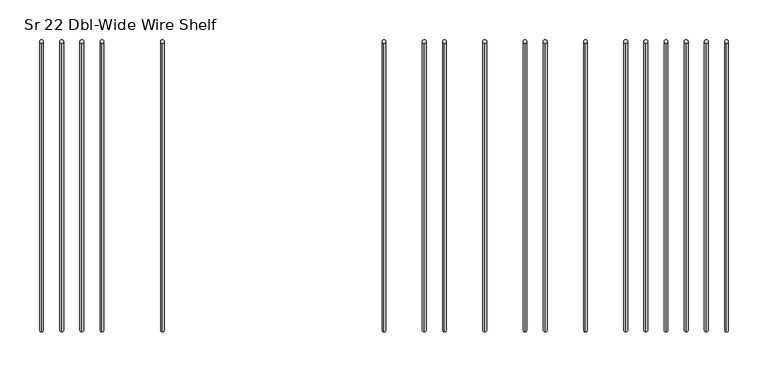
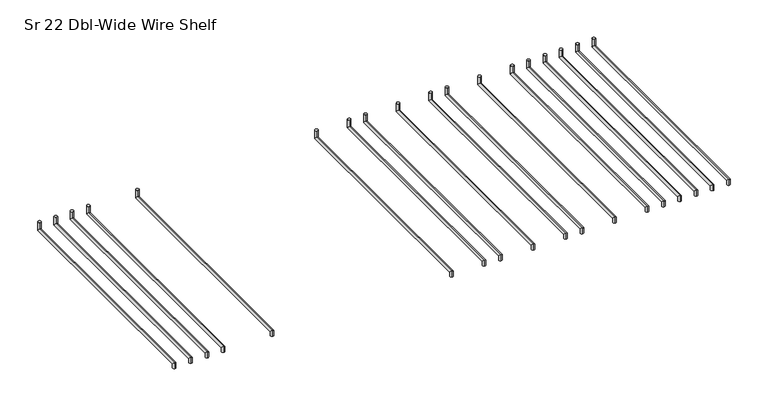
"""IFC4 building model written with IfcOpenShell, lengths in millimetres: furniture geometry, HermanMiller_Carts_CT521_CartShelf : Sr 22 Dbl-Wide Wire Shelf."""

from ifc_helpers import new_model, si_unit, frame, origin, place, context, project, spatial, circle_curve, ellipse_curve, source, transform, mapped, element, save
from ifc_brep_helpers import plane_surface, cylinder_surface, advanced_brep


def sr_22_dbl_wide_wire_shelf_477b4204(model_context):
    return source(origin(), model_context, "Body", "AdvancedBrep", [
        advanced_brep(
        [(561.7223083, -206.38135, 1843.6971), (561.7223083, -211.14385, 1843.6971), (561.7223083, -206.38135, 1848.4596), (561.7223083, -211.14385, 1853.2221), (561.7223083, 157.2983379, 1848.4596), (561.7223083, 152.5358379, 1853.2221), (561.7223083, 157.2983379, 1863.7377), (561.7223083, 152.5358379, 1863.7377)],
        [
            (0, 1, circle_curve(frame((561.7223083, -208.7626, 1843.6971), z_axis=(0.0, 0.0, -1.0), x_axis=(0.0, -1.0, 0.0)), 2.38125)),
            (1, 0, circle_curve(frame((561.7223083, -208.7626, 1843.6971), z_axis=(0.0, 0.0, -1.0), x_axis=(0.0, -1.0, 0.0)), 2.38125)),
            (0, 2),
            (2, 3, ellipse_curve(frame((561.7223083, -208.7626, 1850.84085), z_axis=(0.0, -0.7071067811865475, -0.7071067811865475), x_axis=(0.0, 0.7071067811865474, -0.7071067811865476)), 3.367596, 2.38125)),
            (3, 1),
            (3, 2, ellipse_curve(frame((561.7223083, -208.7626, 1850.84085), z_axis=(0.0, -0.7071067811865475, -0.7071067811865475), x_axis=(0.0, 0.7071067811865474, -0.7071067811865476)), 3.367596, 2.38125)),
            (2, 4),
            (4, 5, ellipse_curve(frame((561.7223083, 154.9170879, 1850.84085), z_axis=(0.0, -0.7071067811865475, -0.7071067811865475), x_axis=(0.0, -0.7071067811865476, 0.7071067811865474)), 3.367596, 2.38125)),
            (5, 3),
            (5, 4, ellipse_curve(frame((561.7223083, 154.9170879, 1850.84085), z_axis=(0.0, -0.7071067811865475, -0.7071067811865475), x_axis=(0.0, -0.7071067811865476, 0.7071067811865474)), 3.367596, 2.38125)),
            (6, 7, circle_curve(frame((561.7223083, 154.9170879, 1863.7377), z_axis=(0.0, 0.0, 1.0), x_axis=(0.0, -1.0, 0.0)), 2.38125)),
            (7, 6, circle_curve(frame((561.7223083, 154.9170879, 1863.7377), z_axis=(0.0, 0.0, 1.0), x_axis=(0.0, -1.0, 0.0)), 2.38125)),
            (4, 6),
            (7, 5),
        ],
        [
            plane_surface(frame((561.7223083, -208.7626, 1843.6971), z_axis=(0.0, 0.0, -1.0), x_axis=(1.0, 0.0, 0.0))),
            cylinder_surface(frame((561.7223083, -208.7626, 1843.6971), z_axis=(0.0, 0.0, -1.0), x_axis=(0.0, -1.0, 0.0)), 2.38125),
            cylinder_surface(frame((561.7223083, -208.7626, 1850.84085), z_axis=(0.0, -1.0, 0.0), x_axis=(0.0, 0.0, 1.0)), 2.38125),
            plane_surface(frame((561.7223083, 154.9170879, 1863.7377), z_axis=(0.0, 0.0, 1.0), x_axis=(1.0, 0.0, 0.0))),
            cylinder_surface(frame((561.7223083, 154.9170879, 1850.84085), z_axis=(0.0, 0.0, -1.0), x_axis=(0.0, -1.0, 0.0)), 2.38125),
        ],
        [
            (0, [[1, 2]]),
            (1, [[-1, 3, 4, 5]]),
            (1, [[-2, -5, 6, -3]]),
            (2, [[-4, 7, 8, 9]]),
            (2, [[-6, -9, 10, -7]]),
            (3, [[11, 12]]),
            (4, [[-8, 13, -12, 14]]),
            (4, [[-10, -14, -11, -13]]),
        ],
    ),
        advanced_brep(
        [(637.9223083, -206.38135, 1843.6971), (637.9223083, -211.14385, 1843.6971), (637.9223083, -206.38135, 1848.4596), (637.9223083, -211.14385, 1853.2221), (637.9223083, 157.2983379, 1848.4596), (637.9223083, 152.5358379, 1853.2221), (637.9223083, 157.2983379, 1863.7377), (637.9223083, 152.5358379, 1863.7377)],
        [
            (0, 1, circle_curve(frame((637.9223083, -208.7626, 1843.6971), z_axis=(0.0, 0.0, -1.0), x_axis=(0.0, -1.0, 0.0)), 2.38125)),
            (1, 0, circle_curve(frame((637.9223083, -208.7626, 1843.6971), z_axis=(0.0, 0.0, -1.0), x_axis=(0.0, -1.0, 0.0)), 2.38125)),
            (0, 2),
            (2, 3, ellipse_curve(frame((637.9223083, -208.7626, 1850.84085), z_axis=(0.0, -0.7071067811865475, -0.7071067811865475), x_axis=(0.0, 0.7071067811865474, -0.7071067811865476)), 3.367596, 2.38125)),
            (3, 1),
            (3, 2, ellipse_curve(frame((637.9223083, -208.7626, 1850.84085), z_axis=(0.0, -0.7071067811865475, -0.7071067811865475), x_axis=(0.0, 0.7071067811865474, -0.7071067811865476)), 3.367596, 2.38125)),
            (2, 4),
            (4, 5, ellipse_curve(frame((637.9223083, 154.9170879, 1850.84085), z_axis=(0.0, -0.7071067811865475, -0.7071067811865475), x_axis=(0.0, -0.7071067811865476, 0.7071067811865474)), 3.367596, 2.38125)),
            (5, 3),
            (5, 4, ellipse_curve(frame((637.9223083, 154.9170879, 1850.84085), z_axis=(0.0, -0.7071067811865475, -0.7071067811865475), x_axis=(0.0, -0.7071067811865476, 0.7071067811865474)), 3.367596, 2.38125)),
            (6, 7, circle_curve(frame((637.9223083, 154.9170879, 1863.7377), z_axis=(0.0, 0.0, 1.0), x_axis=(0.0, -1.0, 0.0)), 2.38125)),
            (7, 6, circle_curve(frame((637.9223083, 154.9170879, 1863.7377), z_axis=(0.0, 0.0, 1.0), x_axis=(0.0, -1.0, 0.0)), 2.38125)),
            (4, 6),
            (7, 5),
        ],
        [
            plane_surface(frame((637.9223083, -208.7626, 1843.6971), z_axis=(0.0, 0.0, -1.0), x_axis=(1.0, 0.0, 0.0))),
            cylinder_surface(frame((637.9223083, -208.7626, 1843.6971), z_axis=(0.0, 0.0, -1.0), x_axis=(0.0, -1.0, 0.0)), 2.38125),
            cylinder_surface(frame((637.9223083, -208.7626, 1850.84085), z_axis=(0.0, -1.0, 0.0), x_axis=(0.0, 0.0, 1.0)), 2.38125),
            plane_surface(frame((637.9223083, 154.9170879, 1863.7377), z_axis=(0.0, 0.0, 1.0), x_axis=(1.0, 0.0, 0.0))),
            cylinder_surface(frame((637.9223083, 154.9170879, 1850.84085), z_axis=(0.0, 0.0, -1.0), x_axis=(0.0, -1.0, 0.0)), 2.38125),
        ],
        [
            (0, [[1, 2]]),
            (1, [[-1, 3, 4, 5]]),
            (1, [[-2, -5, 6, -3]]),
            (2, [[-4, 7, 8, 9]]),
            (2, [[-6, -9, 10, -7]]),
            (3, [[11, 12]]),
            (4, [[-8, 13, -12, 14]]),
            (4, [[-10, -14, -11, -13]]),
        ],
    ),
        advanced_brep(
        [(688.7223083, -206.38135, 1843.6971), (688.7223083, -211.14385, 1843.6971), (688.7223083, -206.38135, 1848.4596), (688.7223083, -211.14385, 1853.2221), (688.7223083, 157.2983379, 1848.4596), (688.7223083, 152.5358379, 1853.2221), (688.7223083, 157.2983379, 1863.7377), (688.7223083, 152.5358379, 1863.7377)],
        [
            (0, 1, circle_curve(frame((688.7223083, -208.7626, 1843.6971), z_axis=(0.0, 0.0, -1.0), x_axis=(0.0, -1.0, 0.0)), 2.38125)),
            (1, 0, circle_curve(frame((688.7223083, -208.7626, 1843.6971), z_axis=(0.0, 0.0, -1.0), x_axis=(0.0, -1.0, 0.0)), 2.38125)),
            (0, 2),
            (2, 3, ellipse_curve(frame((688.7223083, -208.7626, 1850.84085), z_axis=(0.0, -0.7071067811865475, -0.7071067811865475), x_axis=(0.0, 0.7071067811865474, -0.7071067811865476)), 3.367596, 2.38125)),
            (3, 1),
            (3, 2, ellipse_curve(frame((688.7223083, -208.7626, 1850.84085), z_axis=(0.0, -0.7071067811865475, -0.7071067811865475), x_axis=(0.0, 0.7071067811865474, -0.7071067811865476)), 3.367596, 2.38125)),
            (2, 4),
            (4, 5, ellipse_curve(frame((688.7223083, 154.9170879, 1850.84085), z_axis=(0.0, -0.7071067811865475, -0.7071067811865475), x_axis=(0.0, -0.7071067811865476, 0.7071067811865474)), 3.367596, 2.38125)),
            (5, 3),
            (5, 4, ellipse_curve(frame((688.7223083, 154.9170879, 1850.84085), z_axis=(0.0, -0.7071067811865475, -0.7071067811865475), x_axis=(0.0, -0.7071067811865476, 0.7071067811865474)), 3.367596, 2.38125)),
            (6, 7, circle_curve(frame((688.7223083, 154.9170879, 1863.7377), z_axis=(0.0, 0.0, 1.0), x_axis=(0.0, -1.0, 0.0)), 2.38125)),
            (7, 6, circle_curve(frame((688.7223083, 154.9170879, 1863.7377), z_axis=(0.0, 0.0, 1.0), x_axis=(0.0, -1.0, 0.0)), 2.38125)),
            (4, 6),
            (7, 5),
        ],
        [
            plane_surface(frame((688.7223083, -208.7626, 1843.6971), z_axis=(0.0, 0.0, -1.0), x_axis=(1.0, 0.0, 0.0))),
            cylinder_surface(frame((688.7223083, -208.7626, 1843.6971), z_axis=(0.0, 0.0, -1.0), x_axis=(0.0, -1.0, 0.0)), 2.38125),
            cylinder_surface(frame((688.7223083, -208.7626, 1850.84085), z_axis=(0.0, -1.0, 0.0), x_axis=(0.0, 0.0, 1.0)), 2.38125),
            plane_surface(frame((688.7223083, 154.9170879, 1863.7377), z_axis=(0.0, 0.0, 1.0), x_axis=(1.0, 0.0, 0.0))),
            cylinder_surface(frame((688.7223083, 154.9170879, 1850.84085), z_axis=(0.0, 0.0, -1.0), x_axis=(0.0, -1.0, 0.0)), 2.38125),
        ],
        [
            (0, [[1, 2]]),
            (1, [[-1, 3, 4, 5]]),
            (1, [[-2, -5, 6, -3]]),
            (2, [[-4, 7, 8, 9]]),
            (2, [[-6, -9, 10, -7]]),
            (3, [[11, 12]]),
            (4, [[-8, 13, -12, 14]]),
            (4, [[-10, -14, -11, -13]]),
        ],
    ),
        advanced_brep(
        [(663.3223083, -206.38135, 1843.6971), (663.3223083, -211.14385, 1843.6971), (663.3223083, -206.38135, 1848.4596), (663.3223083, -211.14385, 1853.2221), (663.3223083, 157.2983379, 1848.4596), (663.3223083, 152.5358379, 1853.2221), (663.3223083, 157.2983379, 1863.7377), (663.3223083, 152.5358379, 1863.7377)],
        [
            (0, 1, circle_curve(frame((663.3223083, -208.7626, 1843.6971), z_axis=(0.0, 0.0, -1.0), x_axis=(0.0, -1.0, 0.0)), 2.38125)),
            (1, 0, circle_curve(frame((663.3223083, -208.7626, 1843.6971), z_axis=(0.0, 0.0, -1.0), x_axis=(0.0, -1.0, 0.0)), 2.38125)),
            (0, 2),
            (2, 3, ellipse_curve(frame((663.3223083, -208.7626, 1850.84085), z_axis=(0.0, -0.7071067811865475, -0.7071067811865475), x_axis=(0.0, 0.7071067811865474, -0.7071067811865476)), 3.367596, 2.38125)),
            (3, 1),
            (3, 2, ellipse_curve(frame((663.3223083, -208.7626, 1850.84085), z_axis=(0.0, -0.7071067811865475, -0.7071067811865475), x_axis=(0.0, 0.7071067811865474, -0.7071067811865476)), 3.367596, 2.38125)),
            (2, 4),
            (4, 5, ellipse_curve(frame((663.3223083, 154.9170879, 1850.84085), z_axis=(0.0, -0.7071067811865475, -0.7071067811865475), x_axis=(0.0, -0.7071067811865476, 0.7071067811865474)), 3.367596, 2.38125)),
            (5, 3),
            (5, 4, ellipse_curve(frame((663.3223083, 154.9170879, 1850.84085), z_axis=(0.0, -0.7071067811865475, -0.7071067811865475), x_axis=(0.0, -0.7071067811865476, 0.7071067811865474)), 3.367596, 2.38125)),
            (6, 7, circle_curve(frame((663.3223083, 154.9170879, 1863.7377), z_axis=(0.0, 0.0, 1.0), x_axis=(0.0, -1.0, 0.0)), 2.38125)),
            (7, 6, circle_curve(frame((663.3223083, 154.9170879, 1863.7377), z_axis=(0.0, 0.0, 1.0), x_axis=(0.0, -1.0, 0.0)), 2.38125)),
            (4, 6),
            (7, 5),
        ],
        [
            plane_surface(frame((663.3223083, -208.7626, 1843.6971), z_axis=(0.0, 0.0, -1.0), x_axis=(1.0, 0.0, 0.0))),
            cylinder_surface(frame((663.3223083, -208.7626, 1843.6971), z_axis=(0.0, 0.0, -1.0), x_axis=(0.0, -1.0, 0.0)), 2.38125),
            cylinder_surface(frame((663.3223083, -208.7626, 1850.84085), z_axis=(0.0, -1.0, 0.0), x_axis=(0.0, 0.0, 1.0)), 2.38125),
            plane_surface(frame((663.3223083, 154.9170879, 1863.7377), z_axis=(0.0, 0.0, 1.0), x_axis=(1.0, 0.0, 0.0))),
            cylinder_surface(frame((663.3223083, 154.9170879, 1850.84085), z_axis=(0.0, 0.0, -1.0), x_axis=(0.0, -1.0, 0.0)), 2.38125),
        ],
        [
            (0, [[1, 2]]),
            (1, [[-1, 3, 4, 5]]),
            (1, [[-2, -5, 6, -3]]),
            (2, [[-4, 7, 8, 9]]),
            (2, [[-6, -9, 10, -7]]),
            (3, [[11, 12]]),
            (4, [[-8, 13, -12, 14]]),
            (4, [[-10, -14, -11, -13]]),
        ],
    ),
        advanced_brep(
        [(612.5223083, -206.38135, 1843.6971), (612.5223083, -211.14385, 1843.6971), (612.5223083, -206.38135, 1848.4596), (612.5223083, -211.14385, 1853.2221), (612.5223083, 157.2983379, 1848.4596), (612.5223083, 152.5358379, 1853.2221), (612.5223083, 157.2983379, 1863.7377), (612.5223083, 152.5358379, 1863.7377)],
        [
            (0, 1, circle_curve(frame((612.5223083, -208.7626, 1843.6971), z_axis=(0.0, 0.0, -1.0), x_axis=(0.0, -1.0, 0.0)), 2.38125)),
            (1, 0, circle_curve(frame((612.5223083, -208.7626, 1843.6971), z_axis=(0.0, 0.0, -1.0), x_axis=(0.0, -1.0, 0.0)), 2.38125)),
            (0, 2),
            (2, 3, ellipse_curve(frame((612.5223083, -208.7626, 1850.84085), z_axis=(0.0, -0.7071067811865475, -0.7071067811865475), x_axis=(0.0, 0.7071067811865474, -0.7071067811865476)), 3.367596, 2.38125)),
            (3, 1),
            (3, 2, ellipse_curve(frame((612.5223083, -208.7626, 1850.84085), z_axis=(0.0, -0.7071067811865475, -0.7071067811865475), x_axis=(0.0, 0.7071067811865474, -0.7071067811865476)), 3.367596, 2.38125)),
            (2, 4),
            (4, 5, ellipse_curve(frame((612.5223083, 154.9170879, 1850.84085), z_axis=(0.0, -0.7071067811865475, -0.7071067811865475), x_axis=(0.0, -0.7071067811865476, 0.7071067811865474)), 3.367596, 2.38125)),
            (5, 3),
            (5, 4, ellipse_curve(frame((612.5223083, 154.9170879, 1850.84085), z_axis=(0.0, -0.7071067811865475, -0.7071067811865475), x_axis=(0.0, -0.7071067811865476, 0.7071067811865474)), 3.367596, 2.38125)),
            (6, 7, circle_curve(frame((612.5223083, 154.9170879, 1863.7377), z_axis=(0.0, 0.0, 1.0), x_axis=(0.0, -1.0, 0.0)), 2.38125)),
            (7, 6, circle_curve(frame((612.5223083, 154.9170879, 1863.7377), z_axis=(0.0, 0.0, 1.0), x_axis=(0.0, -1.0, 0.0)), 2.38125)),
            (4, 6),
            (7, 5),
        ],
        [
            plane_surface(frame((612.5223083, -208.7626, 1843.6971), z_axis=(0.0, 0.0, -1.0), x_axis=(1.0, 0.0, 0.0))),
            cylinder_surface(frame((612.5223083, -208.7626, 1843.6971), z_axis=(0.0, 0.0, -1.0), x_axis=(0.0, -1.0, 0.0)), 2.38125),
            cylinder_surface(frame((612.5223083, -208.7626, 1850.84085), z_axis=(0.0, -1.0, 0.0), x_axis=(0.0, 0.0, 1.0)), 2.38125),
            plane_surface(frame((612.5223083, 154.9170879, 1863.7377), z_axis=(0.0, 0.0, 1.0), x_axis=(1.0, 0.0, 0.0))),
            cylinder_surface(frame((612.5223083, 154.9170879, 1850.84085), z_axis=(0.0, 0.0, -1.0), x_axis=(0.0, -1.0, 0.0)), 2.38125),
        ],
        [
            (0, [[1, 2]]),
            (1, [[-1, 3, 4, 5]]),
            (1, [[-2, -5, 6, -3]]),
            (2, [[-4, 7, 8, 9]]),
            (2, [[-6, -9, 10, -7]]),
            (3, [[11, 12]]),
            (4, [[-8, 13, -12, 14]]),
            (4, [[-10, -14, -11, -13]]),
        ],
    ),
        advanced_brep(
        [(587.1223083, -206.38135, 1843.6971), (587.1223083, -211.14385, 1843.6971), (587.1223083, -206.38135, 1848.4596), (587.1223083, -211.14385, 1853.2221), (587.1223083, 157.2983379, 1848.4596), (587.1223083, 152.5358379, 1853.2221), (587.1223083, 157.2983379, 1863.7377), (587.1223083, 152.5358379, 1863.7377)],
        [
            (0, 1, circle_curve(frame((587.1223083, -208.7626, 1843.6971), z_axis=(0.0, 0.0, -1.0), x_axis=(0.0, -1.0, 0.0)), 2.38125)),
            (1, 0, circle_curve(frame((587.1223083, -208.7626, 1843.6971), z_axis=(0.0, 0.0, -1.0), x_axis=(0.0, -1.0, 0.0)), 2.38125)),
            (0, 2),
            (2, 3, ellipse_curve(frame((587.1223083, -208.7626, 1850.84085), z_axis=(0.0, -0.7071067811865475, -0.7071067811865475), x_axis=(0.0, 0.7071067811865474, -0.7071067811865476)), 3.367596, 2.38125)),
            (3, 1),
            (3, 2, ellipse_curve(frame((587.1223083, -208.7626, 1850.84085), z_axis=(0.0, -0.7071067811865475, -0.7071067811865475), x_axis=(0.0, 0.7071067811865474, -0.7071067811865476)), 3.367596, 2.38125)),
            (2, 4),
            (4, 5, ellipse_curve(frame((587.1223083, 154.9170879, 1850.84085), z_axis=(0.0, -0.7071067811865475, -0.7071067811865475), x_axis=(0.0, -0.7071067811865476, 0.7071067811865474)), 3.367596, 2.38125)),
            (5, 3),
            (5, 4, ellipse_curve(frame((587.1223083, 154.9170879, 1850.84085), z_axis=(0.0, -0.7071067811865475, -0.7071067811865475), x_axis=(0.0, -0.7071067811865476, 0.7071067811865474)), 3.367596, 2.38125)),
            (6, 7, circle_curve(frame((587.1223083, 154.9170879, 1863.7377), z_axis=(0.0, 0.0, 1.0), x_axis=(0.0, -1.0, 0.0)), 2.38125)),
            (7, 6, circle_curve(frame((587.1223083, 154.9170879, 1863.7377), z_axis=(0.0, 0.0, 1.0), x_axis=(0.0, -1.0, 0.0)), 2.38125)),
            (4, 6),
            (7, 5),
        ],
        [
            plane_surface(frame((587.1223083, -208.7626, 1843.6971), z_axis=(0.0, 0.0, -1.0), x_axis=(1.0, 0.0, 0.0))),
            cylinder_surface(frame((587.1223083, -208.7626, 1843.6971), z_axis=(0.0, 0.0, -1.0), x_axis=(0.0, -1.0, 0.0)), 2.38125),
            cylinder_surface(frame((587.1223083, -208.7626, 1850.84085), z_axis=(0.0, -1.0, 0.0), x_axis=(0.0, 0.0, 1.0)), 2.38125),
            plane_surface(frame((587.1223083, 154.9170879, 1863.7377), z_axis=(0.0, 0.0, 1.0), x_axis=(1.0, 0.0, 0.0))),
            cylinder_surface(frame((587.1223083, 154.9170879, 1850.84085), z_axis=(0.0, 0.0, -1.0), x_axis=(0.0, -1.0, 0.0)), 2.38125),
        ],
        [
            (0, [[1, 2]]),
            (1, [[-1, 3, 4, 5]]),
            (1, [[-2, -5, 6, -3]]),
            (2, [[-4, 7, 8, 9]]),
            (2, [[-6, -9, 10, -7]]),
            (3, [[11, 12]]),
            (4, [[-8, 13, -12, 14]]),
            (4, [[-10, -14, -11, -13]]),
        ],
    ),
        advanced_brep(
        [(510.9223083, -206.38135, 1843.6971), (510.9223083, -211.14385, 1843.6971), (510.9223083, -206.38135, 1848.4596), (510.9223083, -211.14385, 1853.2221), (510.9223083, 157.2983379, 1848.4596), (510.9223083, 152.5358379, 1853.2221), (510.9223083, 157.2983379, 1863.7377), (510.9223083, 152.5358379, 1863.7377)],
        [
            (0, 1, circle_curve(frame((510.9223083, -208.7626, 1843.6971), z_axis=(0.0, 0.0, -1.0), x_axis=(0.0, -1.0, 0.0)), 2.38125)),
            (1, 0, circle_curve(frame((510.9223083, -208.7626, 1843.6971), z_axis=(0.0, 0.0, -1.0), x_axis=(0.0, -1.0, 0.0)), 2.38125)),
            (0, 2),
            (2, 3, ellipse_curve(frame((510.9223083, -208.7626, 1850.84085), z_axis=(0.0, -0.7071067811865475, -0.7071067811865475), x_axis=(0.0, 0.7071067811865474, -0.7071067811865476)), 3.367596, 2.38125)),
            (3, 1),
            (3, 2, ellipse_curve(frame((510.9223083, -208.7626, 1850.84085), z_axis=(0.0, -0.7071067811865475, -0.7071067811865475), x_axis=(0.0, 0.7071067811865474, -0.7071067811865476)), 3.367596, 2.38125)),
            (2, 4),
            (4, 5, ellipse_curve(frame((510.9223083, 154.9170879, 1850.84085), z_axis=(0.0, -0.7071067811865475, -0.7071067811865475), x_axis=(0.0, -0.7071067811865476, 0.7071067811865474)), 3.367596, 2.38125)),
            (5, 3),
            (5, 4, ellipse_curve(frame((510.9223083, 154.9170879, 1850.84085), z_axis=(0.0, -0.7071067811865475, -0.7071067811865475), x_axis=(0.0, -0.7071067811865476, 0.7071067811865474)), 3.367596, 2.38125)),
            (6, 7, circle_curve(frame((510.9223083, 154.9170879, 1863.7377), z_axis=(0.0, 0.0, 1.0), x_axis=(0.0, -1.0, 0.0)), 2.38125)),
            (7, 6, circle_curve(frame((510.9223083, 154.9170879, 1863.7377), z_axis=(0.0, 0.0, 1.0), x_axis=(0.0, -1.0, 0.0)), 2.38125)),
            (4, 6),
            (7, 5),
        ],
        [
            plane_surface(frame((510.9223083, -208.7626, 1843.6971), z_axis=(0.0, 0.0, -1.0), x_axis=(1.0, 0.0, 0.0))),
            cylinder_surface(frame((510.9223083, -208.7626, 1843.6971), z_axis=(0.0, 0.0, -1.0), x_axis=(0.0, -1.0, 0.0)), 2.38125),
            cylinder_surface(frame((510.9223083, -208.7626, 1850.84085), z_axis=(0.0, -1.0, 0.0), x_axis=(0.0, 0.0, 1.0)), 2.38125),
            plane_surface(frame((510.9223083, 154.9170879, 1863.7377), z_axis=(0.0, 0.0, 1.0), x_axis=(1.0, 0.0, 0.0))),
            cylinder_surface(frame((510.9223083, 154.9170879, 1850.84085), z_axis=(0.0, 0.0, -1.0), x_axis=(0.0, -1.0, 0.0)), 2.38125),
        ],
        [
            (0, [[1, 2]]),
            (1, [[-1, 3, 4, 5]]),
            (1, [[-2, -5, 6, -3]]),
            (2, [[-4, 7, 8, 9]]),
            (2, [[-6, -9, 10, -7]]),
            (3, [[11, 12]]),
            (4, [[-8, 13, -12, 14]]),
            (4, [[-10, -14, -11, -13]]),
        ],
    ),
        advanced_brep(
        [(460.1223083, -206.38135, 1843.6971), (460.1223083, -211.14385, 1843.6971), (460.1223083, -206.38135, 1848.4596), (460.1223083, -211.14385, 1853.2221), (460.1223083, 157.2983379, 1848.4596), (460.1223083, 152.5358379, 1853.2221), (460.1223083, 157.2983379, 1863.7377), (460.1223083, 152.5358379, 1863.7377)],
        [
            (0, 1, circle_curve(frame((460.1223083, -208.7626, 1843.6971), z_axis=(0.0, 0.0, -1.0), x_axis=(0.0, -1.0, 0.0)), 2.38125)),
            (1, 0, circle_curve(frame((460.1223083, -208.7626, 1843.6971), z_axis=(0.0, 0.0, -1.0), x_axis=(0.0, -1.0, 0.0)), 2.38125)),
            (0, 2),
            (2, 3, ellipse_curve(frame((460.1223083, -208.7626, 1850.84085), z_axis=(0.0, -0.7071067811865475, -0.7071067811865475), x_axis=(0.0, 0.7071067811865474, -0.7071067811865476)), 3.367596, 2.38125)),
            (3, 1),
            (3, 2, ellipse_curve(frame((460.1223083, -208.7626, 1850.84085), z_axis=(0.0, -0.7071067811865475, -0.7071067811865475), x_axis=(0.0, 0.7071067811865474, -0.7071067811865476)), 3.367596, 2.38125)),
            (2, 4),
            (4, 5, ellipse_curve(frame((460.1223083, 154.9170879, 1850.84085), z_axis=(0.0, -0.7071067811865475, -0.7071067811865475), x_axis=(0.0, -0.7071067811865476, 0.7071067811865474)), 3.367596, 2.38125)),
            (5, 3),
            (5, 4, ellipse_curve(frame((460.1223083, 154.9170879, 1850.84085), z_axis=(0.0, -0.7071067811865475, -0.7071067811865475), x_axis=(0.0, -0.7071067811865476, 0.7071067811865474)), 3.367596, 2.38125)),
            (6, 7, circle_curve(frame((460.1223083, 154.9170879, 1863.7377), z_axis=(0.0, 0.0, 1.0), x_axis=(0.0, -1.0, 0.0)), 2.38125)),
            (7, 6, circle_curve(frame((460.1223083, 154.9170879, 1863.7377), z_axis=(0.0, 0.0, 1.0), x_axis=(0.0, -1.0, 0.0)), 2.38125)),
            (4, 6),
            (7, 5),
        ],
        [
            plane_surface(frame((460.1223083, -208.7626, 1843.6971), z_axis=(0.0, 0.0, -1.0), x_axis=(1.0, 0.0, 0.0))),
            cylinder_surface(frame((460.1223083, -208.7626, 1843.6971), z_axis=(0.0, 0.0, -1.0), x_axis=(0.0, -1.0, 0.0)), 2.38125),
            cylinder_surface(frame((460.1223083, -208.7626, 1850.84085), z_axis=(0.0, -1.0, 0.0), x_axis=(0.0, 0.0, 1.0)), 2.38125),
            plane_surface(frame((460.1223083, 154.9170879, 1863.7377), z_axis=(0.0, 0.0, 1.0), x_axis=(1.0, 0.0, 0.0))),
            cylinder_surface(frame((460.1223083, 154.9170879, 1850.84085), z_axis=(0.0, 0.0, -1.0), x_axis=(0.0, -1.0, 0.0)), 2.38125),
        ],
        [
            (0, [[1, 2]]),
            (1, [[-1, 3, 4, 5]]),
            (1, [[-2, -5, 6, -3]]),
            (2, [[-4, 7, 8, 9]]),
            (2, [[-6, -9, 10, -7]]),
            (3, [[11, 12]]),
            (4, [[-8, 13, -12, 14]]),
            (4, [[-10, -14, -11, -13]]),
        ],
    ),
        advanced_brep(
        [(434.7223083, -206.38135, 1843.6971), (434.7223083, -211.14385, 1843.6971), (434.7223083, -206.38135, 1848.4596), (434.7223083, -211.14385, 1853.2221), (434.7223083, 157.2983379, 1848.4596), (434.7223083, 152.5358379, 1853.2221), (434.7223083, 157.2983379, 1863.7377), (434.7223083, 152.5358379, 1863.7377)],
        [
            (0, 1, circle_curve(frame((434.7223083, -208.7626, 1843.6971), z_axis=(0.0, 0.0, -1.0), x_axis=(0.0, -1.0, 0.0)), 2.38125)),
            (1, 0, circle_curve(frame((434.7223083, -208.7626, 1843.6971), z_axis=(0.0, 0.0, -1.0), x_axis=(0.0, -1.0, 0.0)), 2.38125)),
            (0, 2),
            (2, 3, ellipse_curve(frame((434.7223083, -208.7626, 1850.84085), z_axis=(0.0, -0.7071067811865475, -0.7071067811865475), x_axis=(0.0, 0.7071067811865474, -0.7071067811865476)), 3.367596, 2.38125)),
            (3, 1),
            (3, 2, ellipse_curve(frame((434.7223083, -208.7626, 1850.84085), z_axis=(0.0, -0.7071067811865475, -0.7071067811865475), x_axis=(0.0, 0.7071067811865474, -0.7071067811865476)), 3.367596, 2.38125)),
            (2, 4),
            (4, 5, ellipse_curve(frame((434.7223083, 154.9170879, 1850.84085), z_axis=(0.0, -0.7071067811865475, -0.7071067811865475), x_axis=(0.0, -0.7071067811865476, 0.7071067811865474)), 3.367596, 2.38125)),
            (5, 3),
            (5, 4, ellipse_curve(frame((434.7223083, 154.9170879, 1850.84085), z_axis=(0.0, -0.7071067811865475, -0.7071067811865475), x_axis=(0.0, -0.7071067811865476, 0.7071067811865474)), 3.367596, 2.38125)),
            (6, 7, circle_curve(frame((434.7223083, 154.9170879, 1863.7377), z_axis=(0.0, 0.0, 1.0), x_axis=(0.0, -1.0, 0.0)), 2.38125)),
            (7, 6, circle_curve(frame((434.7223083, 154.9170879, 1863.7377), z_axis=(0.0, 0.0, 1.0), x_axis=(0.0, -1.0, 0.0)), 2.38125)),
            (4, 6),
            (7, 5),
        ],
        [
            plane_surface(frame((434.7223083, -208.7626, 1843.6971), z_axis=(0.0, 0.0, -1.0), x_axis=(1.0, 0.0, 0.0))),
            cylinder_surface(frame((434.7223083, -208.7626, 1843.6971), z_axis=(0.0, 0.0, -1.0), x_axis=(0.0, -1.0, 0.0)), 2.38125),
            cylinder_surface(frame((434.7223083, -208.7626, 1850.84085), z_axis=(0.0, -1.0, 0.0), x_axis=(0.0, 0.0, 1.0)), 2.38125),
            plane_surface(frame((434.7223083, 154.9170879, 1863.7377), z_axis=(0.0, 0.0, 1.0), x_axis=(1.0, 0.0, 0.0))),
            cylinder_surface(frame((434.7223083, 154.9170879, 1850.84085), z_axis=(0.0, 0.0, -1.0), x_axis=(0.0, -1.0, 0.0)), 2.38125),
        ],
        [
            (0, [[1, 2]]),
            (1, [[-1, 3, 4, 5]]),
            (1, [[-2, -5, 6, -3]]),
            (2, [[-4, 7, 8, 9]]),
            (2, [[-6, -9, 10, -7]]),
            (3, [[11, 12]]),
            (4, [[-8, 13, -12, 14]]),
            (4, [[-10, -14, -11, -13]]),
        ],
    ),
        advanced_brep(
        [(-98.6776917, -206.38135, 1843.6971), (-98.6776917, -211.14385, 1843.6971), (-98.6776917, -206.38135, 1848.4596), (-98.6776917, -211.14385, 1853.2221), (-98.6776917, 157.2983379, 1848.4596), (-98.6776917, 152.5358379, 1853.2221), (-98.6776917, 157.2983379, 1863.7377), (-98.6776917, 152.5358379, 1863.7377)],
        [
            (0, 1, circle_curve(frame((-98.6776917, -208.7626, 1843.6971), z_axis=(0.0, 0.0, -1.0), x_axis=(0.0, -1.0, 0.0)), 2.38125)),
            (1, 0, circle_curve(frame((-98.6776917, -208.7626, 1843.6971), z_axis=(0.0, 0.0, -1.0), x_axis=(0.0, -1.0, 0.0)), 2.38125)),
            (0, 2),
            (2, 3, ellipse_curve(frame((-98.6776917, -208.7626, 1850.84085), z_axis=(0.0, -0.7071067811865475, -0.7071067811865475), x_axis=(0.0, 0.7071067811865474, -0.7071067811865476)), 3.367596, 2.38125)),
            (3, 1),
            (3, 2, ellipse_curve(frame((-98.6776917, -208.7626, 1850.84085), z_axis=(0.0, -0.7071067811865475, -0.7071067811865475), x_axis=(0.0, 0.7071067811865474, -0.7071067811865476)), 3.367596, 2.38125)),
            (2, 4),
            (4, 5, ellipse_curve(frame((-98.6776917, 154.9170879, 1850.84085), z_axis=(0.0, -0.7071067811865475, -0.7071067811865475), x_axis=(0.0, -0.7071067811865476, 0.7071067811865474)), 3.367596, 2.38125)),
            (5, 3),
            (5, 4, ellipse_curve(frame((-98.6776917, 154.9170879, 1850.84085), z_axis=(0.0, -0.7071067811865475, -0.7071067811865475), x_axis=(0.0, -0.7071067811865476, 0.7071067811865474)), 3.367596, 2.38125)),
            (6, 7, circle_curve(frame((-98.6776917, 154.9170879, 1863.7377), z_axis=(0.0, 0.0, 1.0), x_axis=(0.0, -1.0, 0.0)), 2.38125)),
            (7, 6, circle_curve(frame((-98.6776917, 154.9170879, 1863.7377), z_axis=(0.0, 0.0, 1.0), x_axis=(0.0, -1.0, 0.0)), 2.38125)),
            (4, 6),
            (7, 5),
        ],
        [
            plane_surface(frame((-98.6776917, -208.7626, 1843.6971), z_axis=(0.0, 0.0, -1.0), x_axis=(1.0, 0.0, 0.0))),
            cylinder_surface(frame((-98.6776917, -208.7626, 1843.6971), z_axis=(0.0, 0.0, -1.0), x_axis=(0.0, -1.0, 0.0)), 2.38125),
            cylinder_surface(frame((-98.6776917, -208.7626, 1850.84085), z_axis=(0.0, -1.0, 0.0), x_axis=(0.0, 0.0, 1.0)), 2.38125),
            plane_surface(frame((-98.6776917, 154.9170879, 1863.7377), z_axis=(0.0, 0.0, 1.0), x_axis=(1.0, 0.0, 0.0))),
            cylinder_surface(frame((-98.6776917, 154.9170879, 1850.84085), z_axis=(0.0, 0.0, -1.0), x_axis=(0.0, -1.0, 0.0)), 2.38125),
        ],
        [
            (0, [[1, 2]]),
            (1, [[-1, 3, 4, 5]]),
            (1, [[-2, -5, 6, -3]]),
            (2, [[-4, 7, 8, 9]]),
            (2, [[-6, -9, 10, -7]]),
            (3, [[11, 12]]),
            (4, [[-8, 13, -12, 14]]),
            (4, [[-10, -14, -11, -13]]),
        ],
    ),
        advanced_brep(
        [(-149.4776917, -206.38135, 1843.6971), (-149.4776917, -211.14385, 1843.6971), (-149.4776917, -206.38135, 1848.4596), (-149.4776917, -211.14385, 1853.2221), (-149.4776917, 157.2983379, 1848.4596), (-149.4776917, 152.5358379, 1853.2221), (-149.4776917, 157.2983379, 1863.7377), (-149.4776917, 152.5358379, 1863.7377)],
        [
            (0, 1, circle_curve(frame((-149.4776917, -208.7626, 1843.6971), z_axis=(0.0, 0.0, -1.0), x_axis=(0.0, -1.0, 0.0)), 2.38125)),
            (1, 0, circle_curve(frame((-149.4776917, -208.7626, 1843.6971), z_axis=(0.0, 0.0, -1.0), x_axis=(0.0, -1.0, 0.0)), 2.38125)),
            (0, 2),
            (2, 3, ellipse_curve(frame((-149.4776917, -208.7626, 1850.84085), z_axis=(0.0, -0.7071067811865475, -0.7071067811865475), x_axis=(0.0, 0.7071067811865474, -0.7071067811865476)), 3.367596, 2.38125)),
            (3, 1),
            (3, 2, ellipse_curve(frame((-149.4776917, -208.7626, 1850.84085), z_axis=(0.0, -0.7071067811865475, -0.7071067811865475), x_axis=(0.0, 0.7071067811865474, -0.7071067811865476)), 3.367596, 2.38125)),
            (2, 4),
            (4, 5, ellipse_curve(frame((-149.4776917, 154.9170879, 1850.84085), z_axis=(0.0, -0.7071067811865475, -0.7071067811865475), x_axis=(0.0, -0.7071067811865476, 0.7071067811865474)), 3.367596, 2.38125)),
            (5, 3),
            (5, 4, ellipse_curve(frame((-149.4776917, 154.9170879, 1850.84085), z_axis=(0.0, -0.7071067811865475, -0.7071067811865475), x_axis=(0.0, -0.7071067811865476, 0.7071067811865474)), 3.367596, 2.38125)),
            (6, 7, circle_curve(frame((-149.4776917, 154.9170879, 1863.7377), z_axis=(0.0, 0.0, 1.0), x_axis=(0.0, -1.0, 0.0)), 2.38125)),
            (7, 6, circle_curve(frame((-149.4776917, 154.9170879, 1863.7377), z_axis=(0.0, 0.0, 1.0), x_axis=(0.0, -1.0, 0.0)), 2.38125)),
            (4, 6),
            (7, 5),
        ],
        [
            plane_surface(frame((-149.4776917, -208.7626, 1843.6971), z_axis=(0.0, 0.0, -1.0), x_axis=(1.0, 0.0, 0.0))),
            cylinder_surface(frame((-149.4776917, -208.7626, 1843.6971), z_axis=(0.0, 0.0, -1.0), x_axis=(0.0, -1.0, 0.0)), 2.38125),
            cylinder_surface(frame((-149.4776917, -208.7626, 1850.84085), z_axis=(0.0, -1.0, 0.0), x_axis=(0.0, 0.0, 1.0)), 2.38125),
            plane_surface(frame((-149.4776917, 154.9170879, 1863.7377), z_axis=(0.0, 0.0, 1.0), x_axis=(1.0, 0.0, 0.0))),
            cylinder_surface(frame((-149.4776917, 154.9170879, 1850.84085), z_axis=(0.0, 0.0, -1.0), x_axis=(0.0, -1.0, 0.0)), 2.38125),
        ],
        [
            (0, [[1, 2]]),
            (1, [[-1, 3, 4, 5]]),
            (1, [[-2, -5, 6, -3]]),
            (2, [[-4, 7, 8, 9]]),
            (2, [[-6, -9, 10, -7]]),
            (3, [[11, 12]]),
            (4, [[-8, 13, -12, 14]]),
            (4, [[-10, -14, -11, -13]]),
        ],
    ),
        advanced_brep(
        [(-174.8776917, -206.38135, 1843.6971), (-174.8776917, -211.14385, 1843.6971), (-174.8776917, -206.38135, 1848.4596), (-174.8776917, -211.14385, 1853.2221), (-174.8776917, 157.2983379, 1848.4596), (-174.8776917, 152.5358379, 1853.2221), (-174.8776917, 157.2983379, 1863.7377), (-174.8776917, 152.5358379, 1863.7377)],
        [
            (0, 1, circle_curve(frame((-174.8776917, -208.7626, 1843.6971), z_axis=(0.0, 0.0, -1.0), x_axis=(0.0, -1.0, 0.0)), 2.38125)),
            (1, 0, circle_curve(frame((-174.8776917, -208.7626, 1843.6971), z_axis=(0.0, 0.0, -1.0), x_axis=(0.0, -1.0, 0.0)), 2.38125)),
            (0, 2),
            (2, 3, ellipse_curve(frame((-174.8776917, -208.7626, 1850.84085), z_axis=(0.0, -0.7071067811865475, -0.7071067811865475), x_axis=(0.0, 0.7071067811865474, -0.7071067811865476)), 3.367596, 2.38125)),
            (3, 1),
            (3, 2, ellipse_curve(frame((-174.8776917, -208.7626, 1850.84085), z_axis=(0.0, -0.7071067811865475, -0.7071067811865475), x_axis=(0.0, 0.7071067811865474, -0.7071067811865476)), 3.367596, 2.38125)),
            (2, 4),
            (4, 5, ellipse_curve(frame((-174.8776917, 154.9170879, 1850.84085), z_axis=(0.0, -0.7071067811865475, -0.7071067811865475), x_axis=(0.0, -0.7071067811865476, 0.7071067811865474)), 3.367596, 2.38125)),
            (5, 3),
            (5, 4, ellipse_curve(frame((-174.8776917, 154.9170879, 1850.84085), z_axis=(0.0, -0.7071067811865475, -0.7071067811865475), x_axis=(0.0, -0.7071067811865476, 0.7071067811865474)), 3.367596, 2.38125)),
            (6, 7, circle_curve(frame((-174.8776917, 154.9170879, 1863.7377), z_axis=(0.0, 0.0, 1.0), x_axis=(0.0, -1.0, 0.0)), 2.38125)),
            (7, 6, circle_curve(frame((-174.8776917, 154.9170879, 1863.7377), z_axis=(0.0, 0.0, 1.0), x_axis=(0.0, -1.0, 0.0)), 2.38125)),
            (4, 6),
            (7, 5),
        ],
        [
            plane_surface(frame((-174.8776917, -208.7626, 1843.6971), z_axis=(0.0, 0.0, -1.0), x_axis=(1.0, 0.0, 0.0))),
            cylinder_surface(frame((-174.8776917, -208.7626, 1843.6971), z_axis=(0.0, 0.0, -1.0), x_axis=(0.0, -1.0, 0.0)), 2.38125),
            cylinder_surface(frame((-174.8776917, -208.7626, 1850.84085), z_axis=(0.0, -1.0, 0.0), x_axis=(0.0, 0.0, 1.0)), 2.38125),
            plane_surface(frame((-174.8776917, 154.9170879, 1863.7377), z_axis=(0.0, 0.0, 1.0), x_axis=(1.0, 0.0, 0.0))),
            cylinder_surface(frame((-174.8776917, 154.9170879, 1850.84085), z_axis=(0.0, 0.0, -1.0), x_axis=(0.0, -1.0, 0.0)), 2.38125),
        ],
        [
            (0, [[1, 2]]),
            (1, [[-1, 3, 4, 5]]),
            (1, [[-2, -5, 6, -3]]),
            (2, [[-4, 7, 8, 9]]),
            (2, [[-6, -9, 10, -7]]),
            (3, [[11, 12]]),
            (4, [[-8, 13, -12, 14]]),
            (4, [[-10, -14, -11, -13]]),
        ],
    ),
        advanced_brep(
        [(-124.0776917, -206.38135, 1843.6971), (-124.0776917, -211.14385, 1843.6971), (-124.0776917, -206.38135, 1848.4596), (-124.0776917, -211.14385, 1853.2221), (-124.0776917, 157.2983379, 1848.4596), (-124.0776917, 152.5358379, 1853.2221), (-124.0776917, 157.2983379, 1863.7377), (-124.0776917, 152.5358379, 1863.7377)],
        [
            (0, 1, circle_curve(frame((-124.0776917, -208.7626, 1843.6971), z_axis=(0.0, 0.0, -1.0), x_axis=(0.0, -1.0, 0.0)), 2.38125)),
            (1, 0, circle_curve(frame((-124.0776917, -208.7626, 1843.6971), z_axis=(0.0, 0.0, -1.0), x_axis=(0.0, -1.0, 0.0)), 2.38125)),
            (0, 2),
            (2, 3, ellipse_curve(frame((-124.0776917, -208.7626, 1850.84085), z_axis=(0.0, -0.7071067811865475, -0.7071067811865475), x_axis=(0.0, 0.7071067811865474, -0.7071067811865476)), 3.367596, 2.38125)),
            (3, 1),
            (3, 2, ellipse_curve(frame((-124.0776917, -208.7626, 1850.84085), z_axis=(0.0, -0.7071067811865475, -0.7071067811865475), x_axis=(0.0, 0.7071067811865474, -0.7071067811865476)), 3.367596, 2.38125)),
            (2, 4),
            (4, 5, ellipse_curve(frame((-124.0776917, 154.9170879, 1850.84085), z_axis=(0.0, -0.7071067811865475, -0.7071067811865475), x_axis=(0.0, -0.7071067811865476, 0.7071067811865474)), 3.367596, 2.38125)),
            (5, 3),
            (5, 4, ellipse_curve(frame((-124.0776917, 154.9170879, 1850.84085), z_axis=(0.0, -0.7071067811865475, -0.7071067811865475), x_axis=(0.0, -0.7071067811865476, 0.7071067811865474)), 3.367596, 2.38125)),
            (6, 7, circle_curve(frame((-124.0776917, 154.9170879, 1863.7377), z_axis=(0.0, 0.0, 1.0), x_axis=(0.0, -1.0, 0.0)), 2.38125)),
            (7, 6, circle_curve(frame((-124.0776917, 154.9170879, 1863.7377), z_axis=(0.0, 0.0, 1.0), x_axis=(0.0, -1.0, 0.0)), 2.38125)),
            (4, 6),
            (7, 5),
        ],
        [
            plane_surface(frame((-124.0776917, -208.7626, 1843.6971), z_axis=(0.0, 0.0, -1.0), x_axis=(1.0, 0.0, 0.0))),
            cylinder_surface(frame((-124.0776917, -208.7626, 1843.6971), z_axis=(0.0, 0.0, -1.0), x_axis=(0.0, -1.0, 0.0)), 2.38125),
            cylinder_surface(frame((-124.0776917, -208.7626, 1850.84085), z_axis=(0.0, -1.0, 0.0), x_axis=(0.0, 0.0, 1.0)), 2.38125),
            plane_surface(frame((-124.0776917, 154.9170879, 1863.7377), z_axis=(0.0, 0.0, 1.0), x_axis=(1.0, 0.0, 0.0))),
            cylinder_surface(frame((-124.0776917, 154.9170879, 1850.84085), z_axis=(0.0, 0.0, -1.0), x_axis=(0.0, -1.0, 0.0)), 2.38125),
        ],
        [
            (0, [[1, 2]]),
            (1, [[-1, 3, 4, 5]]),
            (1, [[-2, -5, 6, -3]]),
            (2, [[-4, 7, 8, 9]]),
            (2, [[-6, -9, 10, -7]]),
            (3, [[11, 12]]),
            (4, [[-8, 13, -12, 14]]),
            (4, [[-10, -14, -11, -13]]),
        ],
    ),
        advanced_brep(
        [(-22.4776917, -206.38135, 1843.6971), (-22.4776917, -211.14385, 1843.6971), (-22.4776917, -206.38135, 1848.4596), (-22.4776917, -211.14385, 1853.2221), (-22.4776917, 157.2983379, 1848.4596), (-22.4776917, 152.5358379, 1853.2221), (-22.4776917, 157.2983379, 1863.7377), (-22.4776917, 152.5358379, 1863.7377)],
        [
            (0, 1, circle_curve(frame((-22.4776917, -208.7626, 1843.6971), z_axis=(0.0, 0.0, -1.0), x_axis=(0.0, -1.0, 0.0)), 2.38125)),
            (1, 0, circle_curve(frame((-22.4776917, -208.7626, 1843.6971), z_axis=(0.0, 0.0, -1.0), x_axis=(0.0, -1.0, 0.0)), 2.38125)),
            (0, 2),
            (2, 3, ellipse_curve(frame((-22.4776917, -208.7626, 1850.84085), z_axis=(0.0, -0.7071067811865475, -0.7071067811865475), x_axis=(0.0, 0.7071067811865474, -0.7071067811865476)), 3.367596, 2.38125)),
            (3, 1),
            (3, 2, ellipse_curve(frame((-22.4776917, -208.7626, 1850.84085), z_axis=(0.0, -0.7071067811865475, -0.7071067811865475), x_axis=(0.0, 0.7071067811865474, -0.7071067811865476)), 3.367596, 2.38125)),
            (2, 4),
            (4, 5, ellipse_curve(frame((-22.4776917, 154.9170879, 1850.84085), z_axis=(0.0, -0.7071067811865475, -0.7071067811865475), x_axis=(0.0, -0.7071067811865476, 0.7071067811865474)), 3.367596, 2.38125)),
            (5, 3),
            (5, 4, ellipse_curve(frame((-22.4776917, 154.9170879, 1850.84085), z_axis=(0.0, -0.7071067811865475, -0.7071067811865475), x_axis=(0.0, -0.7071067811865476, 0.7071067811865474)), 3.367596, 2.38125)),
            (6, 7, circle_curve(frame((-22.4776917, 154.9170879, 1863.7377), z_axis=(0.0, 0.0, 1.0), x_axis=(0.0, -1.0, 0.0)), 2.38125)),
            (7, 6, circle_curve(frame((-22.4776917, 154.9170879, 1863.7377), z_axis=(0.0, 0.0, 1.0), x_axis=(0.0, -1.0, 0.0)), 2.38125)),
            (4, 6),
            (7, 5),
        ],
        [
            plane_surface(frame((-22.4776917, -208.7626, 1843.6971), z_axis=(0.0, 0.0, -1.0), x_axis=(1.0, 0.0, 0.0))),
            cylinder_surface(frame((-22.4776917, -208.7626, 1843.6971), z_axis=(0.0, 0.0, -1.0), x_axis=(0.0, -1.0, 0.0)), 2.38125),
            cylinder_surface(frame((-22.4776917, -208.7626, 1850.84085), z_axis=(0.0, -1.0, 0.0), x_axis=(0.0, 0.0, 1.0)), 2.38125),
            plane_surface(frame((-22.4776917, 154.9170879, 1863.7377), z_axis=(0.0, 0.0, 1.0), x_axis=(1.0, 0.0, 0.0))),
            cylinder_surface(frame((-22.4776917, 154.9170879, 1850.84085), z_axis=(0.0, 0.0, -1.0), x_axis=(0.0, -1.0, 0.0)), 2.38125),
        ],
        [
            (0, [[1, 2]]),
            (1, [[-1, 3, 4, 5]]),
            (1, [[-2, -5, 6, -3]]),
            (2, [[-4, 7, 8, 9]]),
            (2, [[-6, -9, 10, -7]]),
            (3, [[11, 12]]),
            (4, [[-8, 13, -12, 14]]),
            (4, [[-10, -14, -11, -13]]),
        ],
    ),
        advanced_brep(
        [(333.1223083, -206.38135, 1843.6971), (333.1223083, -211.14385, 1843.6971), (333.1223083, -206.38135, 1848.4596), (333.1223083, -211.14385, 1853.2221), (333.1223083, 157.2983379, 1848.4596), (333.1223083, 152.5358379, 1853.2221), (333.1223083, 157.2983379, 1863.7377), (333.1223083, 152.5358379, 1863.7377)],
        [
            (0, 1, circle_curve(frame((333.1223083, -208.7626, 1843.6971), z_axis=(0.0, 0.0, -1.0), x_axis=(0.0, -1.0, 0.0)), 2.38125)),
            (1, 0, circle_curve(frame((333.1223083, -208.7626, 1843.6971), z_axis=(0.0, 0.0, -1.0), x_axis=(0.0, -1.0, 0.0)), 2.38125)),
            (0, 2),
            (2, 3, ellipse_curve(frame((333.1223083, -208.7626, 1850.84085), z_axis=(0.0, -0.7071067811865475, -0.7071067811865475), x_axis=(0.0, 0.7071067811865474, -0.7071067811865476)), 3.367596, 2.38125)),
            (3, 1),
            (3, 2, ellipse_curve(frame((333.1223083, -208.7626, 1850.84085), z_axis=(0.0, -0.7071067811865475, -0.7071067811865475), x_axis=(0.0, 0.7071067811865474, -0.7071067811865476)), 3.367596, 2.38125)),
            (2, 4),
            (4, 5, ellipse_curve(frame((333.1223083, 154.9170879, 1850.84085), z_axis=(0.0, -0.7071067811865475, -0.7071067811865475), x_axis=(0.0, -0.7071067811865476, 0.7071067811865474)), 3.367596, 2.38125)),
            (5, 3),
            (5, 4, ellipse_curve(frame((333.1223083, 154.9170879, 1850.84085), z_axis=(0.0, -0.7071067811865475, -0.7071067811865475), x_axis=(0.0, -0.7071067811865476, 0.7071067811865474)), 3.367596, 2.38125)),
            (6, 7, circle_curve(frame((333.1223083, 154.9170879, 1863.7377), z_axis=(0.0, 0.0, 1.0), x_axis=(0.0, -1.0, 0.0)), 2.38125)),
            (7, 6, circle_curve(frame((333.1223083, 154.9170879, 1863.7377), z_axis=(0.0, 0.0, 1.0), x_axis=(0.0, -1.0, 0.0)), 2.38125)),
            (4, 6),
            (7, 5),
        ],
        [
            plane_surface(frame((333.1223083, -208.7626, 1843.6971), z_axis=(0.0, 0.0, -1.0), x_axis=(1.0, 0.0, 0.0))),
            cylinder_surface(frame((333.1223083, -208.7626, 1843.6971), z_axis=(0.0, 0.0, -1.0), x_axis=(0.0, -1.0, 0.0)), 2.38125),
            cylinder_surface(frame((333.1223083, -208.7626, 1850.84085), z_axis=(0.0, -1.0, 0.0), x_axis=(0.0, 0.0, 1.0)), 2.38125),
            plane_surface(frame((333.1223083, 154.9170879, 1863.7377), z_axis=(0.0, 0.0, 1.0), x_axis=(1.0, 0.0, 0.0))),
            cylinder_surface(frame((333.1223083, 154.9170879, 1850.84085), z_axis=(0.0, 0.0, -1.0), x_axis=(0.0, -1.0, 0.0)), 2.38125),
        ],
        [
            (0, [[1, 2]]),
            (1, [[-1, 3, 4, 5]]),
            (1, [[-2, -5, 6, -3]]),
            (2, [[-4, 7, 8, 9]]),
            (2, [[-6, -9, 10, -7]]),
            (3, [[11, 12]]),
            (4, [[-8, 13, -12, 14]]),
            (4, [[-10, -14, -11, -13]]),
        ],
    ),
        advanced_brep(
        [(256.9223083, -206.38135, 1843.6971), (256.9223083, -211.14385, 1843.6971), (256.9223083, -206.38135, 1848.4596), (256.9223083, -211.14385, 1853.2221), (256.9223083, 157.2983379, 1848.4596), (256.9223083, 152.5358379, 1853.2221), (256.9223083, 157.2983379, 1863.7377), (256.9223083, 152.5358379, 1863.7377)],
        [
            (0, 1, circle_curve(frame((256.9223083, -208.7626, 1843.6971), z_axis=(0.0, 0.0, -1.0), x_axis=(0.0, -1.0, 0.0)), 2.38125)),
            (1, 0, circle_curve(frame((256.9223083, -208.7626, 1843.6971), z_axis=(0.0, 0.0, -1.0), x_axis=(0.0, -1.0, 0.0)), 2.38125)),
            (0, 2),
            (2, 3, ellipse_curve(frame((256.9223083, -208.7626, 1850.84085), z_axis=(0.0, -0.7071067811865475, -0.7071067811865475), x_axis=(0.0, 0.7071067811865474, -0.7071067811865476)), 3.367596, 2.38125)),
            (3, 1),
            (3, 2, ellipse_curve(frame((256.9223083, -208.7626, 1850.84085), z_axis=(0.0, -0.7071067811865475, -0.7071067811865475), x_axis=(0.0, 0.7071067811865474, -0.7071067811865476)), 3.367596, 2.38125)),
            (2, 4),
            (4, 5, ellipse_curve(frame((256.9223083, 154.9170879, 1850.84085), z_axis=(0.0, -0.7071067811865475, -0.7071067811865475), x_axis=(0.0, -0.7071067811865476, 0.7071067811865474)), 3.367596, 2.38125)),
            (5, 3),
            (5, 4, ellipse_curve(frame((256.9223083, 154.9170879, 1850.84085), z_axis=(0.0, -0.7071067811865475, -0.7071067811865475), x_axis=(0.0, -0.7071067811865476, 0.7071067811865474)), 3.367596, 2.38125)),
            (6, 7, circle_curve(frame((256.9223083, 154.9170879, 1863.7377), z_axis=(0.0, 0.0, 1.0), x_axis=(0.0, -1.0, 0.0)), 2.38125)),
            (7, 6, circle_curve(frame((256.9223083, 154.9170879, 1863.7377), z_axis=(0.0, 0.0, 1.0), x_axis=(0.0, -1.0, 0.0)), 2.38125)),
            (4, 6),
            (7, 5),
        ],
        [
            plane_surface(frame((256.9223083, -208.7626, 1843.6971), z_axis=(0.0, 0.0, -1.0), x_axis=(1.0, 0.0, 0.0))),
            cylinder_surface(frame((256.9223083, -208.7626, 1843.6971), z_axis=(0.0, 0.0, -1.0), x_axis=(0.0, -1.0, 0.0)), 2.38125),
            cylinder_surface(frame((256.9223083, -208.7626, 1850.84085), z_axis=(0.0, -1.0, 0.0), x_axis=(0.0, 0.0, 1.0)), 2.38125),
            plane_surface(frame((256.9223083, 154.9170879, 1863.7377), z_axis=(0.0, 0.0, 1.0), x_axis=(1.0, 0.0, 0.0))),
            cylinder_surface(frame((256.9223083, 154.9170879, 1850.84085), z_axis=(0.0, 0.0, -1.0), x_axis=(0.0, -1.0, 0.0)), 2.38125),
        ],
        [
            (0, [[1, 2]]),
            (1, [[-1, 3, 4, 5]]),
            (1, [[-2, -5, 6, -3]]),
            (2, [[-4, 7, 8, 9]]),
            (2, [[-6, -9, 10, -7]]),
            (3, [[11, 12]]),
            (4, [[-8, 13, -12, 14]]),
            (4, [[-10, -14, -11, -13]]),
        ],
    ),
        advanced_brep(
        [(307.7223083, -206.38135, 1843.6971), (307.7223083, -211.14385, 1843.6971), (307.7223083, -206.38135, 1848.4596), (307.7223083, -211.14385, 1853.2221), (307.7223083, 157.2983379, 1848.4596), (307.7223083, 152.5358379, 1853.2221), (307.7223083, 157.2983379, 1863.7377), (307.7223083, 152.5358379, 1863.7377)],
        [
            (0, 1, circle_curve(frame((307.7223083, -208.7626, 1843.6971), z_axis=(0.0, 0.0, -1.0), x_axis=(0.0, -1.0, 0.0)), 2.38125)),
            (1, 0, circle_curve(frame((307.7223083, -208.7626, 1843.6971), z_axis=(0.0, 0.0, -1.0), x_axis=(0.0, -1.0, 0.0)), 2.38125)),
            (0, 2),
            (2, 3, ellipse_curve(frame((307.7223083, -208.7626, 1850.84085), z_axis=(0.0, -0.7071067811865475, -0.7071067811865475), x_axis=(0.0, 0.7071067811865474, -0.7071067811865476)), 3.367596, 2.38125)),
            (3, 1),
            (3, 2, ellipse_curve(frame((307.7223083, -208.7626, 1850.84085), z_axis=(0.0, -0.7071067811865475, -0.7071067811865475), x_axis=(0.0, 0.7071067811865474, -0.7071067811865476)), 3.367596, 2.38125)),
            (2, 4),
            (4, 5, ellipse_curve(frame((307.7223083, 154.9170879, 1850.84085), z_axis=(0.0, -0.7071067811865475, -0.7071067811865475), x_axis=(0.0, -0.7071067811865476, 0.7071067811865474)), 3.367596, 2.38125)),
            (5, 3),
            (5, 4, ellipse_curve(frame((307.7223083, 154.9170879, 1850.84085), z_axis=(0.0, -0.7071067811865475, -0.7071067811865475), x_axis=(0.0, -0.7071067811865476, 0.7071067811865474)), 3.367596, 2.38125)),
            (6, 7, circle_curve(frame((307.7223083, 154.9170879, 1863.7377), z_axis=(0.0, 0.0, 1.0), x_axis=(0.0, -1.0, 0.0)), 2.38125)),
            (7, 6, circle_curve(frame((307.7223083, 154.9170879, 1863.7377), z_axis=(0.0, 0.0, 1.0), x_axis=(0.0, -1.0, 0.0)), 2.38125)),
            (4, 6),
            (7, 5),
        ],
        [
            plane_surface(frame((307.7223083, -208.7626, 1843.6971), z_axis=(0.0, 0.0, -1.0), x_axis=(1.0, 0.0, 0.0))),
            cylinder_surface(frame((307.7223083, -208.7626, 1843.6971), z_axis=(0.0, 0.0, -1.0), x_axis=(0.0, -1.0, 0.0)), 2.38125),
            cylinder_surface(frame((307.7223083, -208.7626, 1850.84085), z_axis=(0.0, -1.0, 0.0), x_axis=(0.0, 0.0, 1.0)), 2.38125),
            plane_surface(frame((307.7223083, 154.9170879, 1863.7377), z_axis=(0.0, 0.0, 1.0), x_axis=(1.0, 0.0, 0.0))),
            cylinder_surface(frame((307.7223083, 154.9170879, 1850.84085), z_axis=(0.0, 0.0, -1.0), x_axis=(0.0, -1.0, 0.0)), 2.38125),
        ],
        [
            (0, [[1, 2]]),
            (1, [[-1, 3, 4, 5]]),
            (1, [[-2, -5, 6, -3]]),
            (2, [[-4, 7, 8, 9]]),
            (2, [[-6, -9, 10, -7]]),
            (3, [[11, 12]]),
            (4, [[-8, 13, -12, 14]]),
            (4, [[-10, -14, -11, -13]]),
        ],
    ),
        advanced_brep(
        [(383.9223083, -206.38135, 1843.6971), (383.9223083, -211.14385, 1843.6971), (383.9223083, -206.38135, 1848.4596), (383.9223083, -211.14385, 1853.2221), (383.9223083, 157.2983379, 1848.4596), (383.9223083, 152.5358379, 1853.2221), (383.9223083, 157.2983379, 1863.7377), (383.9223083, 152.5358379, 1863.7377)],
        [
            (0, 1, circle_curve(frame((383.9223083, -208.7626, 1843.6971), z_axis=(0.0, 0.0, -1.0), x_axis=(0.0, -1.0, 0.0)), 2.38125)),
            (1, 0, circle_curve(frame((383.9223083, -208.7626, 1843.6971), z_axis=(0.0, 0.0, -1.0), x_axis=(0.0, -1.0, 0.0)), 2.38125)),
            (0, 2),
            (2, 3, ellipse_curve(frame((383.9223083, -208.7626, 1850.84085), z_axis=(0.0, -0.7071067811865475, -0.7071067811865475), x_axis=(0.0, 0.7071067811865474, -0.7071067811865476)), 3.367596, 2.38125)),
            (3, 1),
            (3, 2, ellipse_curve(frame((383.9223083, -208.7626, 1850.84085), z_axis=(0.0, -0.7071067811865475, -0.7071067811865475), x_axis=(0.0, 0.7071067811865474, -0.7071067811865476)), 3.367596, 2.38125)),
            (2, 4),
            (4, 5, ellipse_curve(frame((383.9223083, 154.9170879, 1850.84085), z_axis=(0.0, -0.7071067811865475, -0.7071067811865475), x_axis=(0.0, -0.7071067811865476, 0.7071067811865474)), 3.367596, 2.38125)),
            (5, 3),
            (5, 4, ellipse_curve(frame((383.9223083, 154.9170879, 1850.84085), z_axis=(0.0, -0.7071067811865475, -0.7071067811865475), x_axis=(0.0, -0.7071067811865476, 0.7071067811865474)), 3.367596, 2.38125)),
            (6, 7, circle_curve(frame((383.9223083, 154.9170879, 1863.7377), z_axis=(0.0, 0.0, 1.0), x_axis=(0.0, -1.0, 0.0)), 2.38125)),
            (7, 6, circle_curve(frame((383.9223083, 154.9170879, 1863.7377), z_axis=(0.0, 0.0, 1.0), x_axis=(0.0, -1.0, 0.0)), 2.38125)),
            (4, 6),
            (7, 5),
        ],
        [
            plane_surface(frame((383.9223083, -208.7626, 1843.6971), z_axis=(0.0, 0.0, -1.0), x_axis=(1.0, 0.0, 0.0))),
            cylinder_surface(frame((383.9223083, -208.7626, 1843.6971), z_axis=(0.0, 0.0, -1.0), x_axis=(0.0, -1.0, 0.0)), 2.38125),
            cylinder_surface(frame((383.9223083, -208.7626, 1850.84085), z_axis=(0.0, -1.0, 0.0), x_axis=(0.0, 0.0, 1.0)), 2.38125),
            plane_surface(frame((383.9223083, 154.9170879, 1863.7377), z_axis=(0.0, 0.0, 1.0), x_axis=(1.0, 0.0, 0.0))),
            cylinder_surface(frame((383.9223083, 154.9170879, 1850.84085), z_axis=(0.0, 0.0, -1.0), x_axis=(0.0, -1.0, 0.0)), 2.38125),
        ],
        [
            (0, [[1, 2]]),
            (1, [[-1, 3, 4, 5]]),
            (1, [[-2, -5, 6, -3]]),
            (2, [[-4, 7, 8, 9]]),
            (2, [[-6, -9, 10, -7]]),
            (3, [[11, 12]]),
            (4, [[-8, 13, -12, 14]]),
            (4, [[-10, -14, -11, -13]]),
        ],
    ),
    ])


if __name__ == "__main__":
    model = new_model("IFC4")
    model_context = context("Model", 3, world=origin())
    ifc_project = project(units=[si_unit("LENGTHUNIT", "METRE", prefix="MILLI")], contexts=[model_context])
    site = spatial("IfcSite", under=ifc_project)
    building = spatial("IfcBuilding", under=site)
    placement = place(None, origin())
    sr_22_dbl_wide_wire_shelf_shape = sr_22_dbl_wide_wire_shelf_477b4204(model_context)
    element("IfcFurniture", 1, ObjectType="HermanMiller_Carts_CT521_CartShelf : Sr 22 Dbl-Wide Wire Shelf", at=placement, inside=building, context=model_context, shape_type="MappedRepresentation", body=[
        mapped(sr_22_dbl_wide_wire_shelf_shape, transform((0.0, 0.0, 0.0), x_axis=(1.0, 0.0, 0.0), y_axis=(0.0, 1.0, 0.0), z_axis=(0.0, 0.0, 1.0))),
    ])
    save(model, "model.ifc")
